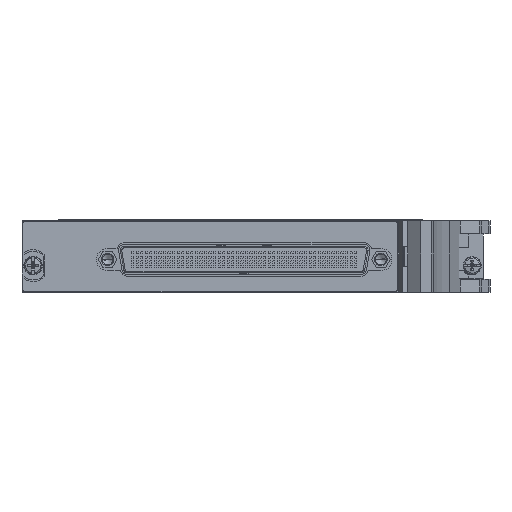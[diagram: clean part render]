
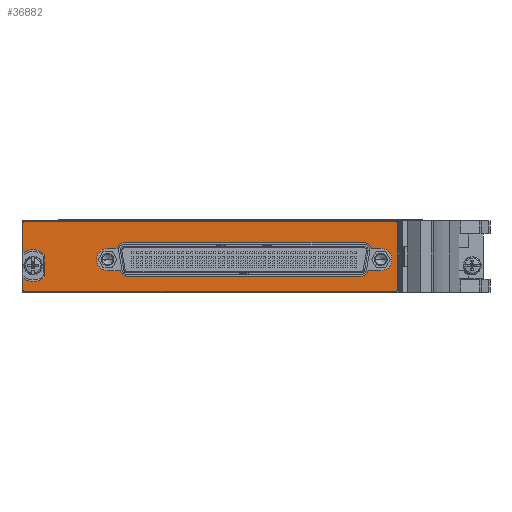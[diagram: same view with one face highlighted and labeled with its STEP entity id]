
A CAD part, left-side view. The second image highlights one B-rep face of the part: STEP entity #36882.
In plain terms, the highlighted planar face has unit normal (-1, 0, 0).
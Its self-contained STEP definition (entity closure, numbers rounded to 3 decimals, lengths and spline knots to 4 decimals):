
#5884=CARTESIAN_POINT('',(-4.289,0.5346,0.6615));
#5885=DIRECTION('',(-1.,0.,0.));
#5886=DIRECTION('',(0.,0.,1.));
#5887=AXIS2_PLACEMENT_3D('',#5884,#5885,#5886);
#5889=DIRECTION('',(0.,1.,0.));
#5890=VECTOR('',#5889,4.07);
#5891=CARTESIAN_POINT('',(-4.289,-3.5354,0.6815));
#5892=LINE('',#5891,#5890);
#5893=CARTESIAN_POINT('',(-4.289,-3.5354,0.6615));
#5894=DIRECTION('',(-1.,0.,0.));
#5895=DIRECTION('',(0.,-1.,0.));
#5896=AXIS2_PLACEMENT_3D('',#5893,#5894,#5895);
#5898=DIRECTION('',(0.,0.,1.));
#5899=VECTOR('',#5898,0.728);
#5900=CARTESIAN_POINT('',(-4.289,-3.5554,-0.0665));
#5901=LINE('',#5900,#5899);
#5902=CARTESIAN_POINT('',(-4.289,-3.5354,-0.0665));
#5903=DIRECTION('',(-1.,0.,0.));
#5904=DIRECTION('',(0.,0.,-1.));
#5905=AXIS2_PLACEMENT_3D('',#5902,#5903,#5904);
#5907=DIRECTION('',(0.,-1.,0.));
#5908=VECTOR('',#5907,4.07);
#5909=CARTESIAN_POINT('',(-4.289,0.5346,-0.0865));
#5910=LINE('',#5909,#5908);
#5911=CARTESIAN_POINT('',(-4.289,0.5346,-0.0665));
#5912=DIRECTION('',(-1.,0.,0.));
#5913=DIRECTION('',(0.,1.,0.));
#5914=AXIS2_PLACEMENT_3D('',#5911,#5912,#5913);
#5916=DIRECTION('',(0.,0.,-1.));
#5917=VECTOR('',#5916,0.1295);
#5918=CARTESIAN_POINT('',(-4.289,0.5546,0.063));
#5919=LINE('',#5918,#5917);
#5920=CARTESIAN_POINT('',(-4.289,0.4426,0.1975));
#5921=DIRECTION('',(1.,0.,0.));
#5922=DIRECTION('',(0.,-0.737,-0.676));
#5923=AXIS2_PLACEMENT_3D('',#5920,#5921,#5922);
#5925=DIRECTION('',(0.,0.,-1.));
#5926=VECTOR('',#5925,0.2365);
#5927=CARTESIAN_POINT('',(-4.289,0.3136,0.3158));
#5928=LINE('',#5927,#5926);
#5929=CARTESIAN_POINT('',(-4.289,0.4426,0.1975));
#5930=DIRECTION('',(1.,0.,0.));
#5931=DIRECTION('',(0.,0.64,0.768));
#5932=AXIS2_PLACEMENT_3D('',#5929,#5930,#5931);
#5934=DIRECTION('',(0.,0.,-1.));
#5935=VECTOR('',#5934,0.3295);
#5936=CARTESIAN_POINT('',(-4.289,0.5546,0.6615));
#5937=LINE('',#5936,#5935);
#5938=DIRECTION('',(0.,1.,0.));
#5939=VECTOR('',#5938,0.1034);
#5940=CARTESIAN_POINT('',(-4.289,-3.3753,0.3865));
#5941=LINE('',#5940,#5939);
#5942=CARTESIAN_POINT('',(-4.289,-3.1921,0.3675));
#5943=DIRECTION('',(-1.,0.,0.));
#5944=DIRECTION('',(0.,-0.973,0.232));
#5945=AXIS2_PLACEMENT_3D('',#5942,#5943,#5944);
#5947=DIRECTION('',(0.,1.,0.));
#5948=VECTOR('',#5947,2.6336);
#5949=CARTESIAN_POINT('',(-4.289,-3.1921,0.4495));
#5950=LINE('',#5949,#5948);
#5951=CARTESIAN_POINT('',(-4.289,-0.5585,0.3675));
#5952=DIRECTION('',(-1.,0.,0.));
#5953=DIRECTION('',(0.,0.,1.));
#5954=AXIS2_PLACEMENT_3D('',#5951,#5952,#5953);
#5956=DIRECTION('',(0.,1.,0.));
#5957=VECTOR('',#5956,0.1034);
#5958=CARTESIAN_POINT('',(-4.289,-0.4788,0.3865));
#5959=LINE('',#5958,#5957);
#5960=CARTESIAN_POINT('',(-4.289,-0.3753,0.2645));
#5961=DIRECTION('',(-1.,0.,0.));
#5962=DIRECTION('',(0.,0.,1.));
#5963=AXIS2_PLACEMENT_3D('',#5960,#5961,#5962);
#5965=DIRECTION('',(0.,-1.,0.));
#5966=VECTOR('',#5965,0.1396);
#5967=CARTESIAN_POINT('',(-4.289,-0.3753,0.1425));
#5968=LINE('',#5967,#5966);
#5969=CARTESIAN_POINT('',(-4.289,-0.5947,0.1615));
#5970=DIRECTION('',(-1.,0.,0.));
#5971=DIRECTION('',(0.,0.973,-0.232));
#5972=AXIS2_PLACEMENT_3D('',#5969,#5970,#5971);
#5974=DIRECTION('',(0.,-1.,0.));
#5975=VECTOR('',#5974,2.5613);
#5976=CARTESIAN_POINT('',(-4.289,-0.5947,0.0795));
#5977=LINE('',#5976,#5975);
#5978=CARTESIAN_POINT('',(-4.289,-3.156,0.1615));
#5979=DIRECTION('',(-1.,0.,0.));
#5980=DIRECTION('',(0.,0.,-1.));
#5981=AXIS2_PLACEMENT_3D('',#5978,#5979,#5980);
#5983=DIRECTION('',(0.,-1.,0.));
#5984=VECTOR('',#5983,0.1396);
#5985=CARTESIAN_POINT('',(-4.289,-3.2357,0.1425));
#5986=LINE('',#5985,#5984);
#5987=CARTESIAN_POINT('',(-4.289,-3.3753,0.2645));
#5988=DIRECTION('',(-1.,0.,0.));
#5989=DIRECTION('',(0.,0.,-1.));
#5990=AXIS2_PLACEMENT_3D('',#5987,#5988,#5989);
#32602=CARTESIAN_POINT('',(-4.289,0.5346,0.6815));
#32603=CARTESIAN_POINT('',(-4.289,0.5546,0.6615));
#32604=VERTEX_POINT('',#32602);
#32605=VERTEX_POINT('',#32603);
#32606=CARTESIAN_POINT('',(-4.289,0.5546,0.332));
#32607=VERTEX_POINT('',#32606);
#32608=CARTESIAN_POINT('',(-4.289,0.3136,0.3158));
#32609=VERTEX_POINT('',#32608);
#32610=CARTESIAN_POINT('',(-4.289,0.3136,0.0792));
#32611=VERTEX_POINT('',#32610);
#32612=CARTESIAN_POINT('',(-4.289,0.5546,0.063));
#32613=VERTEX_POINT('',#32612);
#32614=CARTESIAN_POINT('',(-4.289,0.5546,-0.0665));
#32615=VERTEX_POINT('',#32614);
#32616=CARTESIAN_POINT('',(-4.289,0.5346,-0.0865));
#32617=VERTEX_POINT('',#32616);
#32618=CARTESIAN_POINT('',(-4.289,-3.5354,-0.0865));
#32619=VERTEX_POINT('',#32618);
#32620=CARTESIAN_POINT('',(-4.289,-3.5554,-0.0665));
#32621=VERTEX_POINT('',#32620);
#32622=CARTESIAN_POINT('',(-4.289,-3.5554,0.6615));
#32623=VERTEX_POINT('',#32622);
#32624=CARTESIAN_POINT('',(-4.289,-3.5354,0.6815));
#32625=VERTEX_POINT('',#32624);
#32626=CARTESIAN_POINT('',(-4.289,-3.3753,0.3865));
#32627=CARTESIAN_POINT('',(-4.289,-3.2719,0.3865));
#32628=VERTEX_POINT('',#32626);
#32629=VERTEX_POINT('',#32627);
#32630=CARTESIAN_POINT('',(-4.289,-3.1921,0.4495));
#32631=VERTEX_POINT('',#32630);
#32632=CARTESIAN_POINT('',(-4.289,-0.5585,0.4495));
#32633=VERTEX_POINT('',#32632);
#32634=CARTESIAN_POINT('',(-4.289,-0.4788,0.3865));
#32635=VERTEX_POINT('',#32634);
#32636=CARTESIAN_POINT('',(-4.289,-0.3753,0.3865));
#32637=VERTEX_POINT('',#32636);
#32638=CARTESIAN_POINT('',(-4.289,-0.3753,0.1425));
#32639=VERTEX_POINT('',#32638);
#32640=CARTESIAN_POINT('',(-4.289,-0.5149,0.1425));
#32641=VERTEX_POINT('',#32640);
#32642=CARTESIAN_POINT('',(-4.289,-0.5947,0.0795));
#32643=VERTEX_POINT('',#32642);
#32644=CARTESIAN_POINT('',(-4.289,-3.156,0.0795));
#32645=VERTEX_POINT('',#32644);
#32646=CARTESIAN_POINT('',(-4.289,-3.2357,0.1425));
#32647=VERTEX_POINT('',#32646);
#32648=CARTESIAN_POINT('',(-4.289,-3.3753,0.1425));
#32649=VERTEX_POINT('',#32648);
#36828=CARTESIAN_POINT('',(-4.289,0.4426,0.1975));
#36829=DIRECTION('',(-1.,0.,0.));
#36830=DIRECTION('',(0.,0.,1.));
#36831=AXIS2_PLACEMENT_3D('',#36828,#36829,#36830);
#36832=PLANE('',#36831);
#36833=ORIENTED_EDGE('',*,*,#36808,.F.);
#36834=ORIENTED_EDGE('',*,*,#36822,.F.);
#36835=ORIENTED_EDGE('',*,*,#36740,.F.);
#36837=ORIENTED_EDGE('',*,*,#36836,.F.);
#36839=ORIENTED_EDGE('',*,*,#36838,.F.);
#36841=ORIENTED_EDGE('',*,*,#36840,.F.);
#36843=ORIENTED_EDGE('',*,*,#36842,.F.);
#36845=ORIENTED_EDGE('',*,*,#36844,.F.);
#36847=ORIENTED_EDGE('',*,*,#36846,.F.);
#36849=ORIENTED_EDGE('',*,*,#36848,.F.);
#36851=ORIENTED_EDGE('',*,*,#36850,.F.);
#36853=ORIENTED_EDGE('',*,*,#36852,.F.);
#36854=EDGE_LOOP('',(#36833,#36834,#36835,#36837,#36839,#36841,#36843,#36845,
#36847,#36849,#36851,#36853));
#36855=FACE_OUTER_BOUND('',#36854,.F.);
#36857=ORIENTED_EDGE('',*,*,#36856,.T.);
#36859=ORIENTED_EDGE('',*,*,#36858,.T.);
#36861=ORIENTED_EDGE('',*,*,#36860,.T.);
#36863=ORIENTED_EDGE('',*,*,#36862,.T.);
#36865=ORIENTED_EDGE('',*,*,#36864,.T.);
#36867=ORIENTED_EDGE('',*,*,#36866,.T.);
#36869=ORIENTED_EDGE('',*,*,#36868,.T.);
#36871=ORIENTED_EDGE('',*,*,#36870,.T.);
#36873=ORIENTED_EDGE('',*,*,#36872,.T.);
#36875=ORIENTED_EDGE('',*,*,#36874,.T.);
#36877=ORIENTED_EDGE('',*,*,#36876,.T.);
#36879=ORIENTED_EDGE('',*,*,#36878,.T.);
#36880=EDGE_LOOP('',(#36857,#36859,#36861,#36863,#36865,#36867,#36869,#36871,
#36873,#36875,#36877,#36879));
#36881=FACE_BOUND('',#36880,.F.);
#36882=ADVANCED_FACE('',(#36855,#36881),#36832,.T.);
#5888=CIRCLE('',#5887,0.02);
#5897=CIRCLE('',#5896,0.02);
#5906=CIRCLE('',#5905,0.02);
#5915=CIRCLE('',#5914,0.02);
#5924=CIRCLE('',#5923,0.175);
#5933=CIRCLE('',#5932,0.175);
#5946=CIRCLE('',#5945,0.082);
#5955=CIRCLE('',#5954,0.082);
#5964=CIRCLE('',#5963,0.122);
#5973=CIRCLE('',#5972,0.082);
#5982=CIRCLE('',#5981,0.082);
#5991=CIRCLE('',#5990,0.122);
#36740=EDGE_CURVE('',#32623,#32625,#5897,.T.);
#36808=EDGE_CURVE('',#32604,#32605,#5888,.T.);
#36822=EDGE_CURVE('',#32625,#32604,#5892,.T.);
#36836=EDGE_CURVE('',#32621,#32623,#5901,.T.);
#36838=EDGE_CURVE('',#32619,#32621,#5906,.T.);
#36840=EDGE_CURVE('',#32617,#32619,#5910,.T.);
#36842=EDGE_CURVE('',#32615,#32617,#5915,.T.);
#36844=EDGE_CURVE('',#32613,#32615,#5919,.T.);
#36846=EDGE_CURVE('',#32611,#32613,#5924,.T.);
#36848=EDGE_CURVE('',#32609,#32611,#5928,.T.);
#36850=EDGE_CURVE('',#32607,#32609,#5933,.T.);
#36852=EDGE_CURVE('',#32605,#32607,#5937,.T.);
#36856=EDGE_CURVE('',#32628,#32629,#5941,.T.);
#36858=EDGE_CURVE('',#32629,#32631,#5946,.T.);
#36860=EDGE_CURVE('',#32631,#32633,#5950,.T.);
#36862=EDGE_CURVE('',#32633,#32635,#5955,.T.);
#36864=EDGE_CURVE('',#32635,#32637,#5959,.T.);
#36866=EDGE_CURVE('',#32637,#32639,#5964,.T.);
#36868=EDGE_CURVE('',#32639,#32641,#5968,.T.);
#36870=EDGE_CURVE('',#32641,#32643,#5973,.T.);
#36872=EDGE_CURVE('',#32643,#32645,#5977,.T.);
#36874=EDGE_CURVE('',#32645,#32647,#5982,.T.);
#36876=EDGE_CURVE('',#32647,#32649,#5986,.T.);
#36878=EDGE_CURVE('',#32649,#32628,#5991,.T.);
